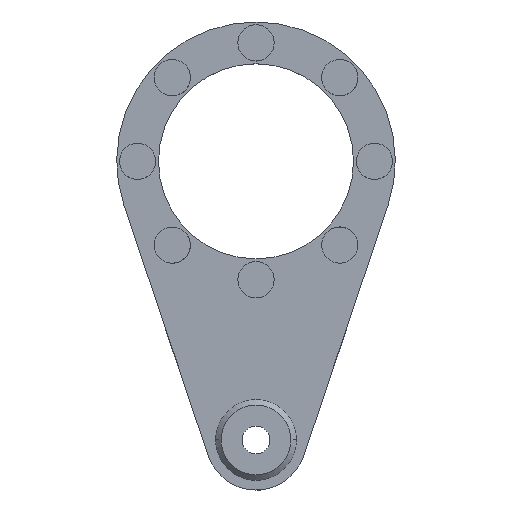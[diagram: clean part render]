
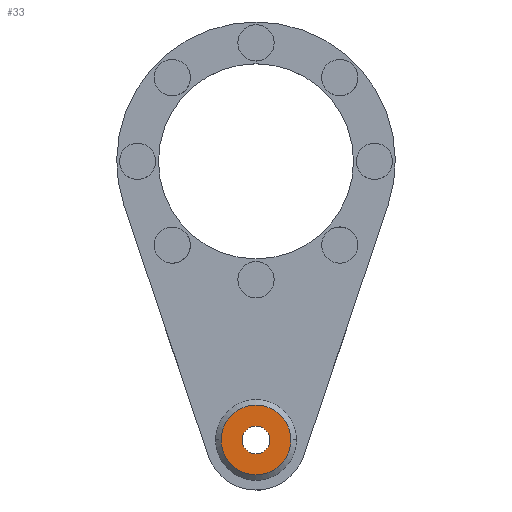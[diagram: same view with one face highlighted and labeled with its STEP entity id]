
A CAD part, top view. The second image highlights one B-rep face of the part: STEP entity #33.
In plain terms, the highlighted planar face has unit normal (0, 0, 1).
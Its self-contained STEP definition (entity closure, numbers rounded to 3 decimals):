
#18=FACE_BOUND('',#122,.T.);
#33=ADVANCED_FACE('',(#77,#18),#714,.T.);
#77=FACE_OUTER_BOUND('',#121,.T.);
#121=EDGE_LOOP('',(#182,#183));
#122=EDGE_LOOP('',(#184,#185));
#182=ORIENTED_EDGE('',*,*,#447,.F.);
#183=ORIENTED_EDGE('',*,*,#378,.F.);
#184=ORIENTED_EDGE('',*,*,#382,.T.);
#185=ORIENTED_EDGE('',*,*,#451,.T.);
#378=EDGE_CURVE('',#642,#692,#514,.T.);
#382=EDGE_CURVE('',#644,#694,#517,.T.);
#447=EDGE_CURVE('',#692,#642,#560,.T.);
#451=EDGE_CURVE('',#694,#644,#563,.T.);
#514=TRIMMED_CURVE($,#578,(#1364),(#1365),.T.,.CARTESIAN.);
#517=TRIMMED_CURVE($,#581,(#1375),(#1376),.T.,.CARTESIAN.);
#560=TRIMMED_CURVE($,#624,(#1548),(#1549),.T.,.CARTESIAN.);
#563=TRIMMED_CURVE($,#627,(#1559),(#1560),.T.,.CARTESIAN.);
#578=CIRCLE('',#971,12.5);
#581=CIRCLE('',#974,5.);
#624=CIRCLE('',#1017,12.5);
#627=CIRCLE('',#1020,5.);
#642=VERTEX_POINT('',#1295);
#644=VERTEX_POINT('',#1297);
#692=VERTEX_POINT('',#1345);
#694=VERTEX_POINT('',#1347);
#714=PLANE('',#932);
#932=AXIS2_PLACEMENT_3D('',#1216,#1042,$);
#971=AXIS2_PLACEMENT_3D($,#1363,#1081,#1082);
#974=AXIS2_PLACEMENT_3D($,#1374,#1087,#1088);
#1017=AXIS2_PLACEMENT_3D($,#1547,#1173,#1174);
#1020=AXIS2_PLACEMENT_3D($,#1558,#1179,#1180);
#1042=DIRECTION('',(0.,0.,1.));
#1081=DIRECTION('',(0.,0.,-1.));
#1082=DIRECTION('',(-1.,0.,0.));
#1087=DIRECTION('',(0.,0.,-1.));
#1088=DIRECTION('',(-1.,0.,0.));
#1173=DIRECTION('',(0.,0.,-1.));
#1174=DIRECTION('',(1.,0.,0.));
#1179=DIRECTION('',(0.,0.,-1.));
#1180=DIRECTION('',(1.,0.,0.));
#1216=CARTESIAN_POINT('',(-15.06,-115.06,7.));
#1295=CARTESIAN_POINT('',(-12.5,-100.,7.));
#1297=CARTESIAN_POINT('',(-5.,-100.,7.));
#1345=CARTESIAN_POINT('',(12.5,-100.,7.));
#1347=CARTESIAN_POINT('',(5.,-100.,7.));
#1363=CARTESIAN_POINT('',(0.,-100.,7.));
#1364=CARTESIAN_POINT('',(-12.5,-100.,7.));
#1365=CARTESIAN_POINT('',(12.5,-100.,7.));
#1374=CARTESIAN_POINT('',(0.,-100.,7.));
#1375=CARTESIAN_POINT('',(-5.,-100.,7.));
#1376=CARTESIAN_POINT('',(5.,-100.,7.));
#1547=CARTESIAN_POINT('',(0.,-100.,7.));
#1548=CARTESIAN_POINT('',(12.5,-100.,7.));
#1549=CARTESIAN_POINT('',(-12.5,-100.,7.));
#1558=CARTESIAN_POINT('',(0.,-100.,7.));
#1559=CARTESIAN_POINT('',(5.,-100.,7.));
#1560=CARTESIAN_POINT('',(-5.,-100.,7.));
